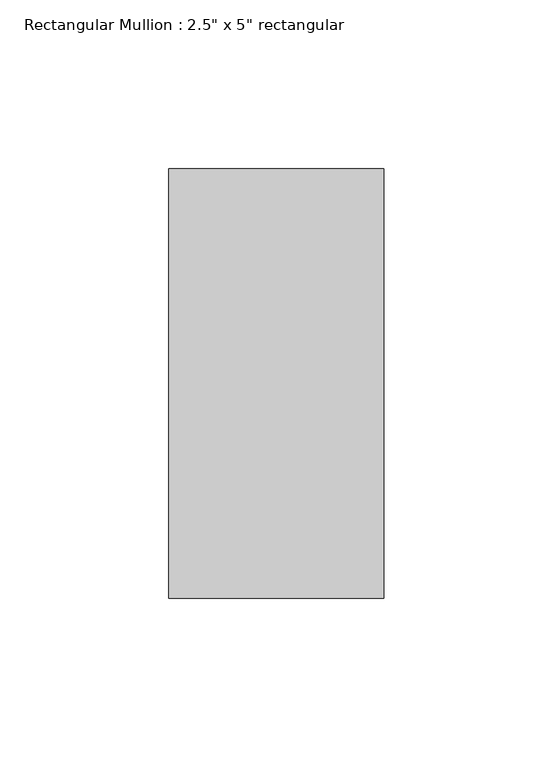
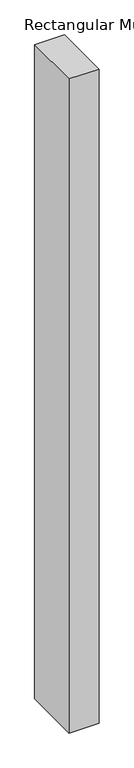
"""IFC4 building model written with IfcOpenShell, lengths in millimetres: member geometry."""

from ifc_helpers import new_model, si_unit, frame, origin, place, context, project, spatial, polyline, outline, extrude, source, transform, mapped, element, save


def member_43722e07(model_context):
    return source(origin(), model_context, "Body", "SweptSolid", [
        extrude(outline(polyline([(0.0, 50.8), (0.0, -76.2), (-63.5, -76.2), (-63.5, 50.8), (0.0, 50.8)])), frame((0.0, 0.0, -1473.2), z_axis=(0.0, 0.0, 1.0), x_axis=(1.0, 0.0, 0.0)), (0.0, 0.0, 1.0), 1473.2),
    ])


if __name__ == "__main__":
    model = new_model("IFC4")
    model_context = context("Model", 3, world=origin())
    ifc_project = project(units=[si_unit("LENGTHUNIT", "METRE", prefix="MILLI")], contexts=[model_context])
    site = spatial("IfcSite", under=ifc_project)
    building = spatial("IfcBuilding", under=site)
    placement = place(None, origin())
    member_shape = member_43722e07(model_context)
    element("IfcMember", 1, ObjectType="Rectangular Mullion : 2.5\" x 5\" rectangular", at=placement, inside=building, context=model_context, shape_type="MappedRepresentation", body=[
        mapped(member_shape, transform((0.0, 0.0, 0.0), x_axis=(1.0, 0.0, 0.0), y_axis=(0.0, 1.0, 0.0), z_axis=(0.0, 0.0, 1.0))),
    ])
    save(model, "model.ifc")
